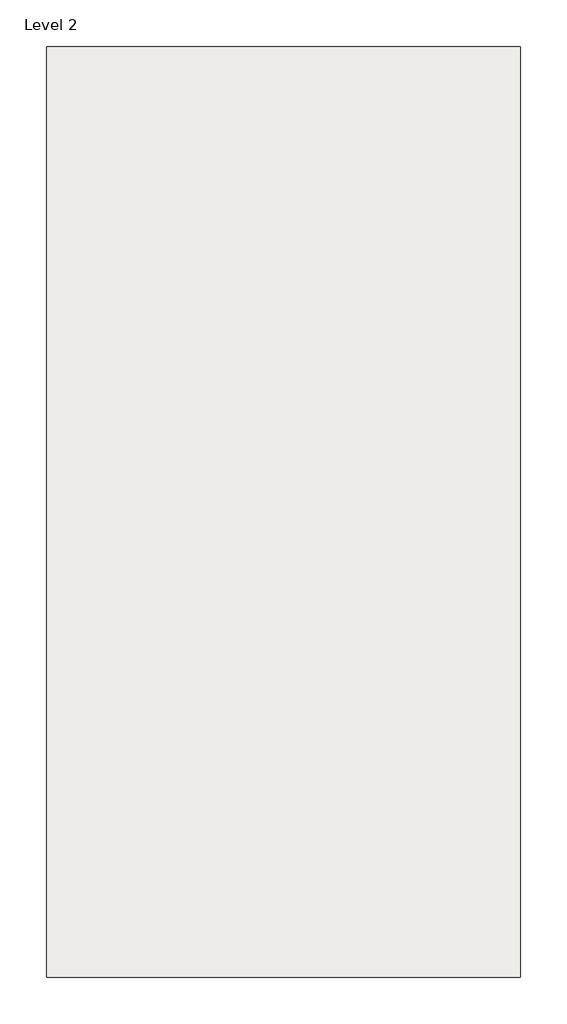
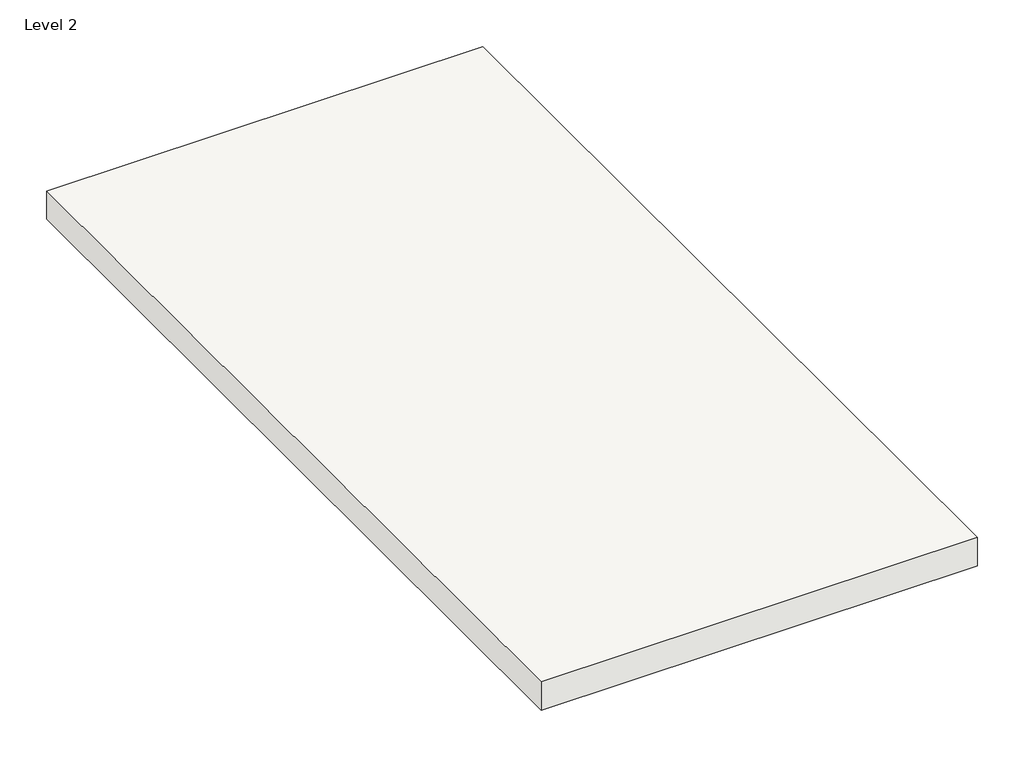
# One storey: 1 slab.
"""IFC4 building model written with IfcOpenShell, lengths in millimetres."""

from ifc_helpers import new_model, si_unit, frame, origin, place, context, project, spatial, polyline, outline, extrude, element, save

model = new_model("IFC4")

# Units and contexts
model_context = context("Model", 3, world=origin())
ifc_project = project(units=[si_unit("LENGTHUNIT", "METRE", prefix="MILLI")], contexts=[model_context])

# Site, building, storey
site = spatial("IfcSite", under=ifc_project)
building = spatial("IfcBuilding", under=site)
storey = spatial("IfcBuildingStorey", under=building, Name="Level 2", Elevation=3200.0)

# Slab
placement = place(None, origin())
element("IfcSlab", 1, ObjectType="Generic 300mm", at=placement, inside=storey, context=model_context, shape_type="SweptSolid", body=[
    extrude(outline(polyline([(941.7962743, 4040.0174317), (941.7962743, -4599.9825683), (-3458.2037257, -4599.9825683), (-3458.2037257, 4040.0174317), (941.7962743, 4040.0174317)])), frame((0.0, 0.0, 2900.0), z_axis=(0.0, 0.0, 1.0), x_axis=(1.0, 0.0, 0.0)), (0.0, 0.0, 1.0), 300.0),
])

save(model, "model.ifc")
